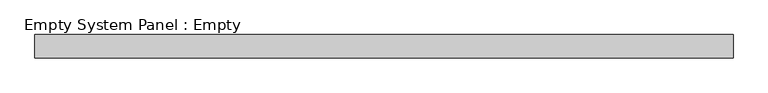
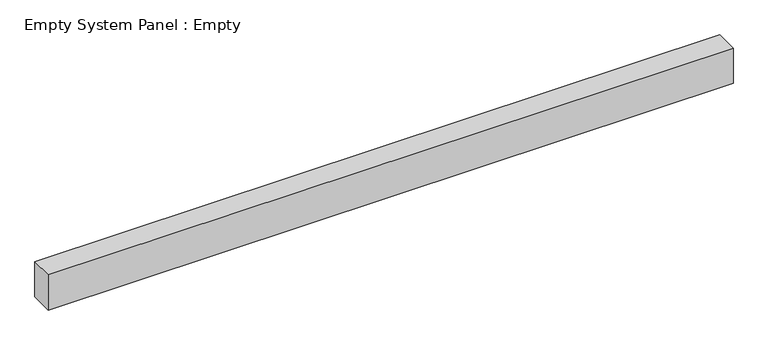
"""IFC4 building model written with IfcOpenShell, lengths in millimetres: plate geometry, Empty System Panel : Empty."""

from ifc_helpers import new_model, si_unit, origin, origin_with_axes, place, context, project, spatial, polyline, outline, extrude, source, transform, mapped, element, save


def empty_system_panel_empty_68612530(model_context):
    return source(origin(), model_context, "Body", "SweptSolid", [
        extrude(outline(polyline([(1500.0, -50.0), (-1500.0, -50.0), (-1500.0, 50.0), (1500.0, 50.0), (1500.0, -50.0)])), origin_with_axes(), (0.0, 0.0, 1.0), 163.0),
    ])


if __name__ == "__main__":
    model = new_model("IFC4")
    model_context = context("Model", 3, world=origin())
    ifc_project = project(units=[si_unit("LENGTHUNIT", "METRE", prefix="MILLI")], contexts=[model_context])
    site = spatial("IfcSite", under=ifc_project)
    building = spatial("IfcBuilding", under=site)
    placement = place(None, origin())
    empty_system_panel_empty_shape = empty_system_panel_empty_68612530(model_context)
    element("IfcPlate", 1, ObjectType="Empty System Panel : Empty", at=placement, inside=building, context=model_context, shape_type="MappedRepresentation", body=[
        mapped(empty_system_panel_empty_shape, transform((0.0, 0.0, 0.0), x_axis=(1.0, 0.0, 0.0), y_axis=(0.0, 1.0, 0.0), z_axis=(0.0, 0.0, 1.0))),
    ])
    save(model, "model.ifc")
